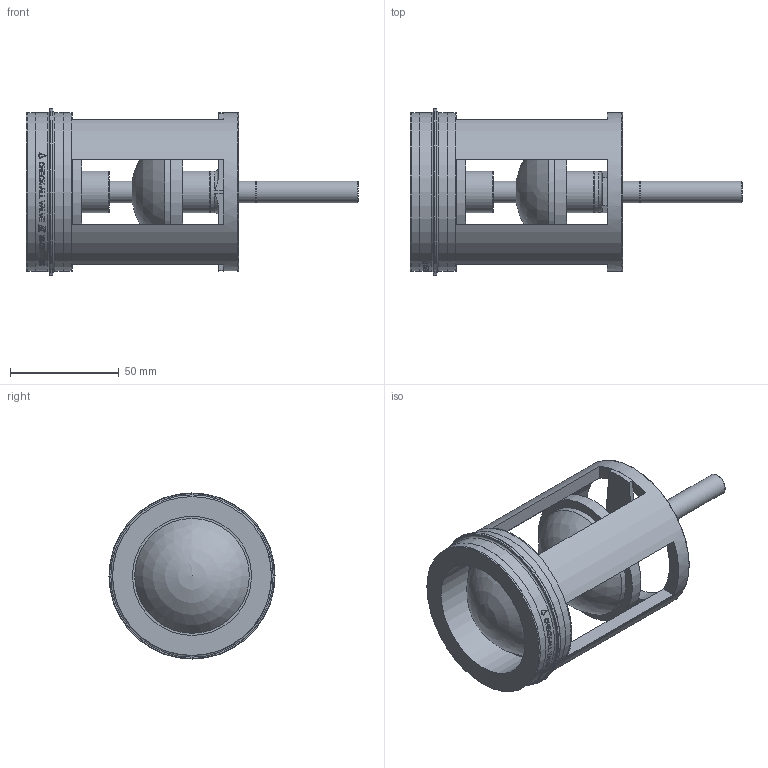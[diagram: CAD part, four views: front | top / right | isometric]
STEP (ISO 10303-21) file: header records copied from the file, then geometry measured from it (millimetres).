
FILE_DESCRIPTION(/* description */ ('Unknown'),/* implementation_level */ '2;1');
FILE_NAME(/* name */ '3SM',/* time_stamp */ '2024-07-31T15:59:59-05:00',/* author */ ('Unknown'),/* organization */ ('Unknown'),/* preprocessor_version */ 'ST-DEVELOPER v19.4',/* originating_system */ 'Solid Edge',/* authorisation */ 'Unknown');
FILE_SCHEMA (('AUTOMOTIVE_DESIGN {1 0 10303 214 3 1 1}'));
Length unit declared in the file: millimetre
Products named in the file (1): 3SM
Bounding box: 152.3 x 76.2 x 76.2 mm (x, y, z)
Volume: 181458.2 mm3; surface area: 52722.1 mm2
Topology: 1 solids, 1 shells, 332 faces, 835 edges, 552 vertices
Faces by surface type: plane 166, bspline 95, cylinder 58, torus 11, sphere 2
Full cylindrical faces by diameter (mm): 9.957 x3, 9.982 x1, 19.05 x3, 52.629 x2, 54.61 x1, 60.96 x2, 60.985 x1, 72.873 x3, 72.875 x1, 72.898 x2, 76.2 x1
Entity records: 15865 total; most frequent: CARTESIAN_POINT 7243, ORIENTED_EDGE 1570, EDGE_CURVE 785, DIRECTION 690, B_SPLINE_CURVE_WITH_KNOTS 651, VERTEX_POINT 541, EDGE_LOOP 430, FACE_BOUND 430
